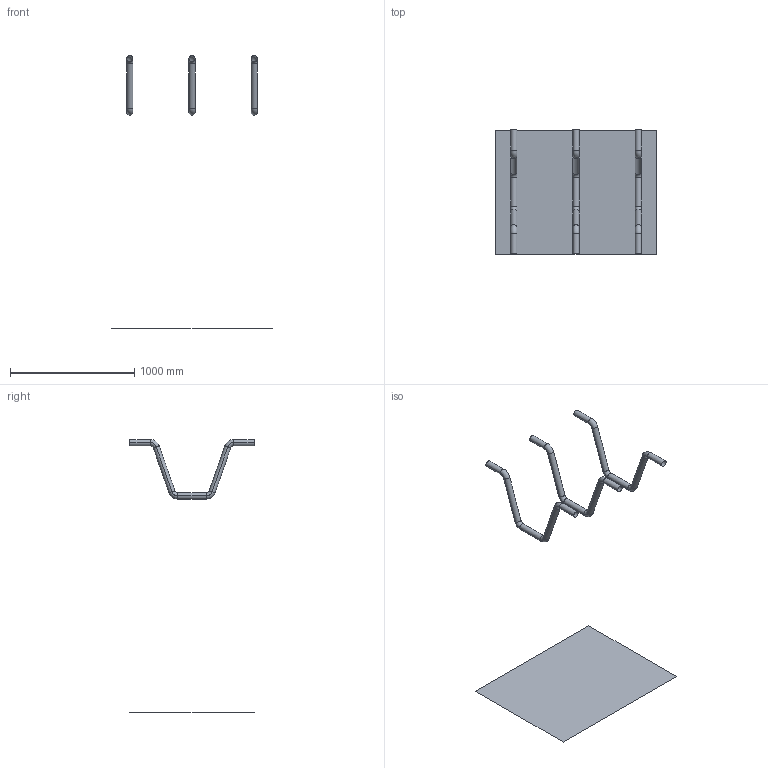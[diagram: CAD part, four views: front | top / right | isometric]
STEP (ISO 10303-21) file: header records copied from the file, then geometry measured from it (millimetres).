
FILE_DESCRIPTION(('CATIA V5 STEP Exchange'),'2;1');
FILE_NAME('C:\_Andres\UNIVERSIDAD\IQS\ASIGNATURAS\DAO\EXF\EXF-16172c\2inicio\Sala_Ferrero_Ej08_v29.stp','2017-03-05T21:54:57+00:00',('none'),('none'),'CATIA Version 5-6 Release 2014 SP1 HF18','CATIA V5 STEP AP203','none');
FILE_SCHEMA(('CONFIG_CONTROL_DESIGN'));
Length unit declared in the file: millimetre
Products named in the file (1): Sala_Ferrero_Ej08_v29
Bounding box: 1290 x 1000 x 2196 mm (x, y, z)
Surface area: 2030757.5 mm2 (no closed solid volume)
Topology: 0 solids, 4 shells, 55 faces, 118 edges, 64 vertices
Faces by surface type: cylinder 30, torus 24, plane 1
Entity records: 1283 total; most frequent: ORIENTED_EDGE 220, CARTESIAN_POINT 208, DIRECTION 168, EDGE_CURVE 118, AXIS2_PLACEMENT_3D 110, CIRCLE 84, VERTEX_POINT 64, ADVANCED_FACE 55
